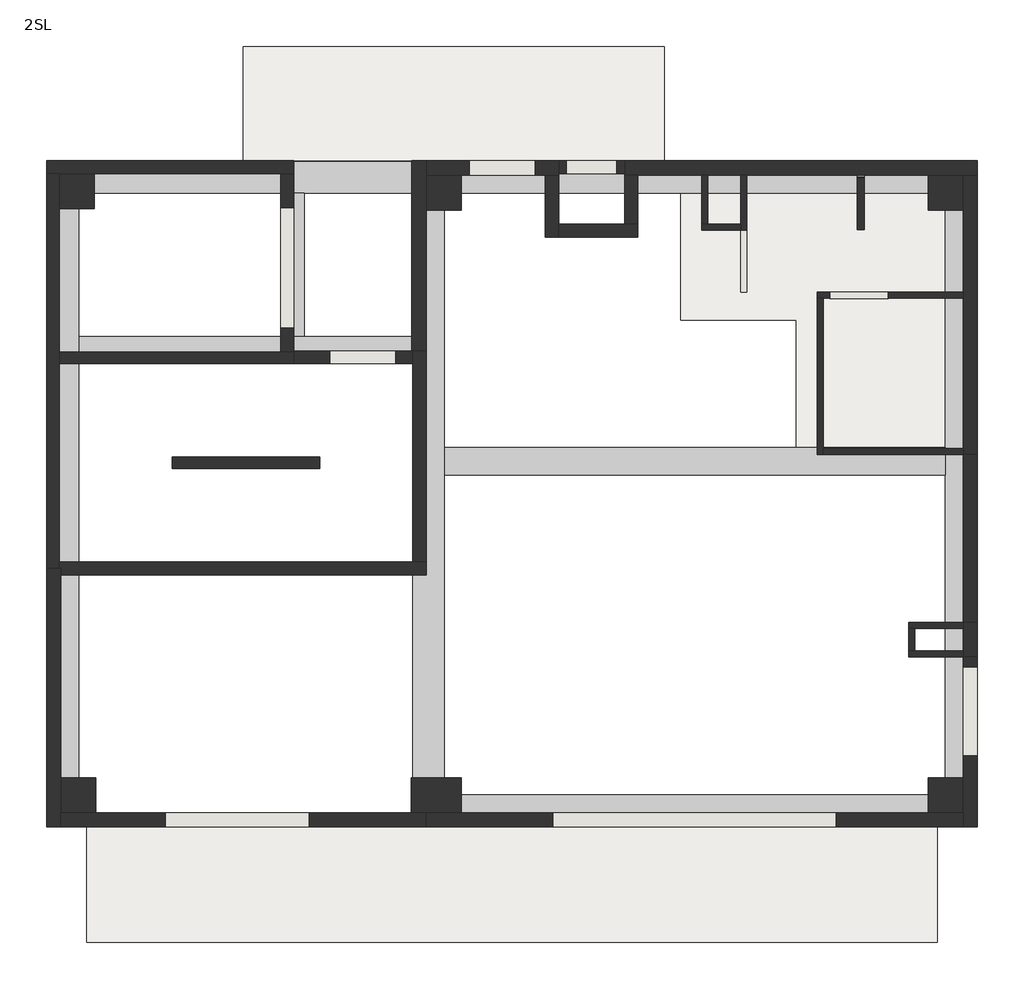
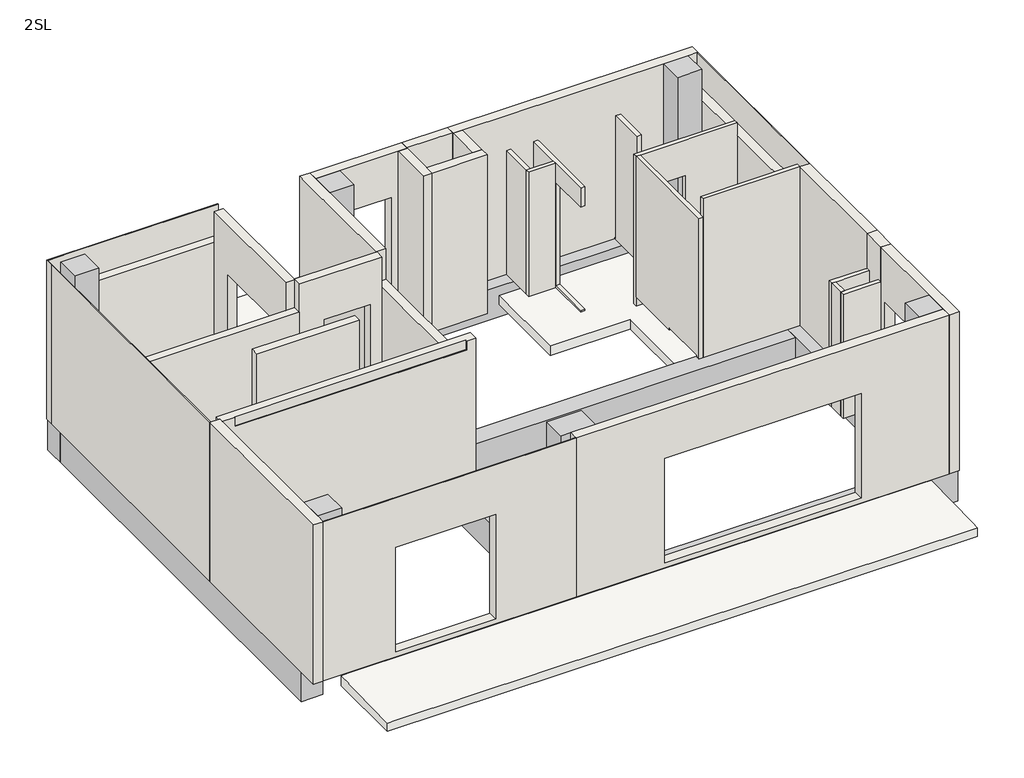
# One storey: 33 walls, 8 beams, 6 columns, 3 slabs.
"""IFC4 building model written with IfcOpenShell, lengths in millimetres."""

from ifc_helpers import new_model, si_unit, frame, origin, place, context, project, spatial, polyline, outline, extrude, faceted_brep, element, save

model = new_model("IFC4")

# Units and contexts
model_context = context("Model", 3, world=origin())
ifc_project = project(units=[si_unit("LENGTHUNIT", "METRE", prefix="MILLI")], contexts=[model_context])

# Site, building, storey
site = spatial("IfcSite", under=ifc_project)
building = spatial("IfcBuilding", under=site)
storey = spatial("IfcBuildingStorey", under=building, Name="2SL", Elevation=3120.0)

# Beams
placement = place(None, origin())
element("IfcBeam", 1, ObjectType="コンクリート-長方形梁 : B1-350x550", at=placement, inside=storey, context=model_context, shape_type="Brep", body=[
    faceted_brep([(-3381.7658988, 1298.6001516, 3120.0), (-3381.7658988, 948.6001516, 3120.0), (-616.7658988, 948.6001516, 3120.0), (918.2341012, 948.6001516, 3120.0), (918.2341012, 1298.6001516, 3120.0), (-481.7658988, 1298.6001516, 3120.0), (-781.7658988, 1298.6001516, 3120.0), (-3381.7658988, 948.6001516, 2570.0), (918.2341012, 948.6001516, 2570.0), (-3381.7658988, 1298.6001516, 2570.0), (918.2341012, 1298.6001516, 2570.0)], [[[0, 1, 2, 3, 4, 5, 6]], [[1, 7, 8, 3, 2]], [[7, 9, 10, 8]], [[9, 0, 6, 5, 4, 10]], [[7, 1, 0, 9]], [[4, 3, 8, 10]]]),
])
element("IfcBeam", 2, ObjectType="コンクリート-長方形梁 : B1-350x550", at=placement, inside=storey, context=model_context, shape_type="SweptSolid", body=[
    extrude(outline(polyline([(7768.2341012, -131.3998484), (7768.2341012, -481.3998484), (1318.2341012, -481.3998484), (1318.2341012, -131.3998484), (7768.2341012, -131.3998484)])), frame((0.0, 0.0, 2570.0), z_axis=(0.0, 0.0, 1.0), x_axis=(1.0, 0.0, 0.0)), (0.0, 0.0, 1.0), 550.0),
])
element("IfcBeam", 3, ObjectType="コンクリート-長方形梁 : B2-300x500", at=placement, inside=storey, context=model_context, shape_type="SweptSolid", body=[
    extrude(outline(polyline([(-781.7658988, 3148.6001516), (-481.7658988, 3148.6001516), (-481.7658988, 1298.6001516), (-781.7658988, 1298.6001516), (-781.7658988, 3148.6001516)])), frame((0.0, 0.0, 2620.0), z_axis=(0.0, 0.0, 1.0), x_axis=(1.0, 0.0, 0.0)), (0.0, 0.0, 1.0), 500.0),
])
element("IfcBeam", 4, ObjectType="コンクリート-長方形梁 : G1-400x600", at=placement, inside=storey, context=model_context, shape_type="Brep", body=[
    faceted_brep([(8168.2341012, -5001.3998484, 3120.0), (8168.2341012, -4601.3998484, 3120.0), (7768.2341012, -4601.3998484, 3120.0), (1318.2341012, -4601.3998484, 3120.0), (1318.2341012, -5001.3998484, 3120.0), (8168.2341012, -5001.3998484, 2520.0), (1318.2341012, -5001.3998484, 2520.0), (8168.2341012, -4601.3998484, 2520.0), (1318.2341012, -4601.3998484, 2520.0), (7768.2341012, -4601.3998484, 2520.0)], [[[0, 1, 2, 3, 4]], [[5, 0, 4, 6]], [[7, 5, 6, 8, 9]], [[1, 7, 9, 8, 3, 2]], [[1, 0, 5, 7]], [[4, 3, 8, 6]]]),
])
element("IfcBeam", 5, ObjectType="コンクリート-長方形梁 : G1-400x600", at=placement, inside=storey, context=model_context, shape_type="Brep", body=[
    faceted_brep([(8168.2341012, 3548.6001516, 3120.0), (7768.2341012, 3548.6001516, 3120.0), (7768.2341012, 3148.6001516, 3120.0), (7768.2341012, -131.3998484, 3120.0), (7768.2341012, -481.3998484, 3120.0), (7768.2341012, -4601.3998484, 3120.0), (8168.2341012, -4601.3998484, 3120.0), (8168.2341012, 3398.6001516, 3120.0), (8168.2341012, 3548.6001516, 2520.0), (8168.2341012, -4601.3998484, 2520.0), (8168.2341012, 3398.6001516, 2520.0), (7768.2341012, 3548.6001516, 2520.0), (7768.2341012, -4601.3998484, 2520.0), (7768.2341012, 3148.6001516, 2520.0)], [[[0, 1, 2, 3, 4, 5, 6, 7]], [[8, 0, 7, 6, 9, 10]], [[11, 8, 10, 9, 12, 13]], [[1, 11, 13, 12, 5, 4, 3, 2]], [[6, 5, 12, 9]], [[1, 0, 8, 11]]]),
])
element("IfcBeam", 6, ObjectType="コンクリート-長方形梁 : G1-400x600", at=placement, inside=storey, context=model_context, shape_type="Brep", body=[
    faceted_brep([(-3781.7658988, 3548.6001516, 3120.0), (-3781.7658988, 3398.6001516, 3120.0), (-3781.7658988, 3148.6001516, 3120.0), (-3381.7658988, 3148.6001516, 3120.0), (-781.7658988, 3148.6001516, 3120.0), (-481.7658988, 3148.6001516, 3120.0), (918.2341012, 3148.6001516, 3120.0), (1318.2341012, 3148.6001516, 3120.0), (7768.2341012, 3148.6001516, 3120.0), (7768.2341012, 3548.6001516, 3120.0), (-3781.7658988, 3548.6001516, 2520.0), (7768.2341012, 3548.6001516, 2520.0), (-3781.7658988, 3148.6001516, 2520.0), (-3781.7658988, 3398.6001516, 2520.0), (7768.2341012, 3148.6001516, 2520.0), (1318.2341012, 3148.6001516, 2520.0), (918.2341012, 3148.6001516, 2520.0), (-3381.7658988, 3148.6001516, 2520.0)], [[[0, 1, 2, 3, 4, 5, 6, 7, 8, 9]], [[10, 0, 9, 11]], [[12, 13, 10, 11, 14, 15, 16, 17]], [[2, 12, 17, 16, 15, 14, 8, 7, 6, 5, 4, 3]], [[9, 8, 14, 11]], [[2, 1, 0, 10, 13, 12]]]),
])
element("IfcBeam", 7, ObjectType="コンクリート-長方形梁 : G1-400x600", at=placement, inside=storey, context=model_context, shape_type="Brep", body=[
    faceted_brep([(-3781.7658988, -4601.3998484, 3120.0), (-3381.7658988, -4601.3998484, 3120.0), (-3381.7658988, 948.6001516, 3120.0), (-3381.7658988, 1298.6001516, 3120.0), (-3381.7658988, 3148.6001516, 3120.0), (-3781.7658988, 3148.6001516, 3120.0), (-3781.7658988, -4601.3998484, 2520.0), (-3781.7658988, 3148.6001516, 2520.0), (-3381.7658988, -4601.3998484, 2520.0), (-3381.7658988, 3148.6001516, 2520.0)], [[[0, 1, 2, 3, 4, 5]], [[6, 0, 5, 7]], [[8, 6, 7, 9]], [[1, 8, 9, 4, 3, 2]], [[1, 0, 6, 8]], [[5, 4, 9, 7]]]),
])
element("IfcBeam", 8, ObjectType="コンクリート-長方形梁 : G1-400x600", at=placement, inside=storey, context=model_context, shape_type="Brep", body=[
    faceted_brep([(918.2341012, -4601.3998484, 3120.0), (1318.2341012, -4601.3998484, 3120.0), (1318.2341012, -481.3998484, 3120.0), (1318.2341012, -143.8998484, 3120.0), (1318.2341012, -131.3998484, 3120.0), (1318.2341012, 3148.6001516, 3120.0), (918.2341012, 3148.6001516, 3120.0), (918.2341012, 1298.6001516, 3120.0), (918.2341012, 1113.6001516, 3120.0), (918.2341012, 1031.1001516, 3120.0), (918.2341012, 948.6001516, 3120.0), (918.2341012, -1601.3998484, 3120.0), (918.2341012, -4601.3998484, 2520.0), (918.2341012, 3148.6001516, 2520.0), (1318.2341012, -4601.3998484, 2520.0), (1318.2341012, 3148.6001516, 2520.0), (1318.2341012, 3148.6001516, 2940.0)], [[[0, 1, 2, 3, 4, 5, 6, 7, 8, 9, 10, 11]], [[12, 0, 11, 10, 9, 8, 7, 6, 13]], [[14, 12, 13, 15]], [[1, 14, 15, 16, 5, 4, 3, 2]], [[1, 0, 12, 14]], [[6, 5, 16, 15, 13]]]),
])

# Columns
element("IfcColumn", 9, ObjectType="角柱 : 600 x 600mm", at=placement, inside=storey, context=model_context, shape_type="Brep", body=[
    faceted_brep([(-3181.7658988, 2948.6001516, 6240.0), (-3181.7658988, 3398.6001516, 6240.0), (-3631.7658988, 3398.6001516, 6240.0), (-3631.7658988, 2948.6001516, 6240.0), (-3181.7658988, 3398.6001516, 3120.0), (-3181.7658988, 2948.6001516, 3120.0), (-3631.7658988, 2948.6001516, 3120.0), (-3631.7658988, 3398.6001516, 3120.0), (-3631.7658988, 3398.6001516, 5640.0)], [[[0, 1, 2, 3]], [[4, 5, 6, 7]], [[5, 0, 3, 6]], [[0, 5, 4, 1]], [[1, 4, 7, 8, 2]], [[3, 2, 8, 7, 6]]]),
])
element("IfcColumn", 10, ObjectType="角柱 : 620 x 620mm", at=placement, inside=storey, context=model_context, shape_type="Brep", body=[
    faceted_brep([(7548.2341012, -4381.3998484, 6240.0), (7548.2341012, -4831.3998484, 6240.0), (7998.2341012, -4831.3998484, 6240.0), (7998.2341012, -4381.3998484, 6240.0), (7548.2341012, -4831.3998484, 3120.0), (7548.2341012, -4381.3998484, 3120.0), (7998.2341012, -4381.3998484, 3120.0), (7998.2341012, -4831.3998484, 3120.0), (7548.2341012, -4381.3998484, 3155.0), (7548.2341012, -4381.3998484, 5555.0), (7998.2341012, -4381.3998484, 5555.0), (7998.2341012, -4381.3998484, 3155.0), (7548.2341012, -4831.3998484, 3155.0), (7548.2341012, -4831.3998484, 5555.0)], [[[0, 1, 2, 3]], [[4, 5, 6, 7]], [[5, 8, 9, 0, 3, 10, 11, 6]], [[0, 9, 8, 5, 4, 12, 13, 1]], [[1, 13, 12, 4, 7, 2]], [[3, 2, 7, 6, 11, 10]]]),
])
element("IfcColumn", 11, ObjectType="角柱 : 620 x 620mm", at=placement, inside=storey, context=model_context, shape_type="Brep", body=[
    faceted_brep([(7548.2341012, 2928.6001516, 6240.0), (7998.2341012, 2928.6001516, 6240.0), (7998.2341012, 3378.6001516, 6240.0), (7548.2341012, 3378.6001516, 6240.0), (7998.2341012, 2928.6001516, 3120.0), (7548.2341012, 2928.6001516, 3120.0), (7548.2341012, 3378.6001516, 3120.0), (7998.2341012, 3378.6001516, 3120.0), (7548.2341012, 2928.6001516, 3155.0), (7548.2341012, 2928.6001516, 5555.0), (7548.2341012, 3378.6001516, 5555.0), (7548.2341012, 3378.6001516, 3141.7), (7998.2341012, 2928.6001516, 3155.0), (7998.2341012, 2928.6001516, 5555.0), (7998.2341012, 3378.6001516, 5640.0)], [[[0, 1, 2, 3]], [[4, 5, 6, 7]], [[5, 8, 9, 0, 3, 10, 11, 6]], [[0, 9, 8, 5, 4, 12, 13, 1]], [[1, 13, 12, 4, 7, 14, 2]], [[3, 2, 14, 7, 6, 11, 10]]]),
])
element("IfcColumn", 12, ObjectType="角柱 : 620 x 620mm", at=placement, inside=storey, context=model_context, shape_type="Brep", body=[
    faceted_brep([(1538.2341012, 2928.6001516, 6240.0), (1538.2341012, 3378.6001516, 6240.0), (1088.2341012, 3378.6001516, 6240.0), (1088.2341012, 2928.6001516, 6240.0), (1538.2341012, 3378.6001516, 3120.0), (1538.2341012, 2928.6001516, 3120.0), (1088.2341012, 2928.6001516, 3120.0), (1088.2341012, 3378.6001516, 3120.0), (1538.2341012, 2928.6001516, 3155.0), (1538.2341012, 2928.6001516, 5555.0), (1088.2341012, 2928.6001516, 5555.0), (1088.2341012, 2928.6001516, 3155.0), (1538.2341012, 3378.6001516, 3155.0), (1538.2341012, 3378.6001516, 5555.0)], [[[0, 1, 2, 3]], [[4, 5, 6, 7]], [[5, 8, 9, 0, 3, 10, 11, 6]], [[0, 9, 8, 5, 4, 12, 13, 1]], [[1, 13, 12, 4, 7, 2]], [[3, 2, 7, 6, 11, 10]]]),
])
element("IfcColumn", 13, ObjectType="角柱 : 620 x 620mm", at=placement, inside=storey, context=model_context, shape_type="Brep", body=[
    faceted_brep([(-3161.7658988, -4381.3998484, 6240.0), (-3611.7658988, -4381.3998484, 6240.0), (-3611.7658988, -4831.3998484, 6240.0), (-3161.7658988, -4831.3998484, 6240.0), (-3611.7658988, -4381.3998484, 3120.0), (-3161.7658988, -4381.3998484, 3120.0), (-3161.7658988, -4831.3998484, 3120.0), (-3611.7658988, -4831.3998484, 3120.0), (-3161.7658988, -4381.3998484, 5555.0), (-3161.7658988, -4381.3998484, 3155.0), (-3611.7658988, -4381.3998484, 3155.0), (-3611.7658988, -4381.3998484, 5555.0), (-3161.7658988, -4831.3998484, 5555.0), (-3161.7658988, -4831.3998484, 3155.0), (-3611.7658988, -4831.3998484, 3155.0), (-3611.7658988, -4831.3998484, 5640.0)], [[[0, 1, 2, 3]], [[4, 5, 6, 7]], [[0, 8, 9, 5, 4, 10, 11, 1]], [[5, 9, 8, 0, 3, 12, 13, 6]], [[1, 11, 10, 4, 7, 14, 15, 2]], [[3, 2, 15, 14, 7, 6, 13, 12]]]),
])
element("IfcColumn", 14, ObjectType="角柱 : 620 x 640mm", at=placement, inside=storey, context=model_context, shape_type="Brep", body=[
    faceted_brep([(1538.2341012, -4381.3998484, 6240.0), (898.2341012, -4381.3998484, 6240.0), (898.2341012, -4831.3998484, 6240.0), (1083.2341012, -4831.3998484, 6240.0), (1538.2341012, -4831.3998484, 6240.0), (898.2341012, -4381.3998484, 3120.0), (1538.2341012, -4381.3998484, 3120.0), (1538.2341012, -4831.3998484, 3120.0), (1083.2341012, -4831.3998484, 3120.0), (898.2341012, -4831.3998484, 3120.0), (1538.2341012, -4381.3998484, 5555.0), (1538.2341012, -4381.3998484, 3155.0), (898.2341012, -4381.3998484, 3155.0), (898.2341012, -4381.3998484, 5555.0), (898.2341012, -4831.3998484, 3155.0), (898.2341012, -4831.3998484, 5555.0), (1538.2341012, -4831.3998484, 5555.0), (1538.2341012, -4831.3998484, 3155.0)], [[[0, 1, 2, 3, 4]], [[5, 6, 7, 8, 9]], [[1, 0, 10, 11, 6, 5, 12, 13]], [[1, 13, 12, 5, 9, 14, 15, 2]], [[6, 11, 10, 0, 4, 16, 17, 7]], [[3, 2, 15, 14, 9, 8]], [[4, 3, 8, 7, 17, 16]]]),
])

# Slabs
element("IfcSlab", 15, ObjectType="一般180mm", at=placement, inside=storey, context=model_context, shape_type="Brep", body=[
    faceted_brep([(4363.2341012, 1508.6001516, 2760.0), (4363.2341012, 3148.6001516, 2760.0), (7768.2341012, 3148.6001516, 2760.0), (7768.2341012, -131.3998484, 2760.0), (5853.2341012, -131.3998484, 2760.0), (5853.2341012, 1508.6001516, 2760.0), (4363.2341012, 1508.6001516, 2940.0), (5853.2341012, 1508.6001516, 2940.0), (5853.2341012, -131.3998484, 2940.0), (7768.2341012, -131.3998484, 2940.0), (7768.2341012, 3148.6001516, 2940.0), (4723.2341012, 3148.6001516, 2940.0), (4363.2341012, 3148.6001516, 2940.0)], [[[0, 1, 2, 3, 4, 5]], [[6, 7, 8, 9, 10, 11, 12]], [[1, 0, 6, 12]], [[2, 1, 12, 11, 10]], [[3, 2, 10, 9]], [[4, 3, 9, 8]], [[5, 4, 8, 7]], [[0, 5, 7, 6]]]),
])
element("IfcSlab", 16, ObjectType="一般 180mm+15ｍｍ", at=placement, inside=storey, context=model_context, shape_type="Brep", body=[
    faceted_brep([(4153.2341012, 3563.6001516, 2910.0), (-1266.7658988, 3563.6001516, 2910.0), (-1266.7658988, 5033.6001516, 2910.0), (-1131.7658988, 5033.6001516, 2910.0), (4153.2341012, 5033.6001516, 2910.0), (4153.2341012, 4898.6001516, 2910.0), (4153.2341012, 3563.6001516, 3105.0), (4018.2341012, 3563.6001516, 3105.0), (-1131.7658988, 3563.6001516, 3105.0), (-1266.7658988, 3563.6001516, 3105.0), (-1266.7658988, 5033.6001516, 3075.0), (-1131.7658988, 5033.6001516, 3075.0), (4153.2341012, 5033.6001516, 3075.0), (4153.2341012, 4898.6001516, 3077.755102)], [[[0, 1, 2, 3, 4, 5]], [[1, 0, 6, 7, 8, 9]], [[2, 1, 9, 10]], [[4, 3, 2, 10, 11, 12]], [[0, 5, 4, 12, 13, 6]], [[12, 11, 10, 9, 8, 7, 6, 13]]]),
])
element("IfcSlab", 17, ObjectType="一般 180mm+15ｍｍ", at=placement, inside=storey, context=model_context, shape_type="Brep", body=[
    faceted_brep([(7668.2341012, -5016.3998484, 2910.0), (7668.2341012, -6501.3998484, 2910.0), (-3281.7658988, -6501.3998484, 2910.0), (-3281.7658988, -5016.3998484, 2910.0), (7668.2341012, -5016.3998484, 3105.0), (7668.2341012, -6351.3998484, 3078.030303), (7668.2341012, -6501.3998484, 3075.0), (-3131.7658988, -6501.3998484, 3075.0), (-3281.7658988, -6501.3998484, 3075.0), (-3281.7658988, -5016.3998484, 3105.0), (-3131.7658988, -5016.3998484, 3105.0), (7518.2341012, -5016.3998484, 3105.0)], [[[0, 1, 2, 3]], [[1, 0, 4, 5, 6]], [[2, 1, 6, 7, 8]], [[3, 2, 8, 9]], [[0, 3, 9, 10, 11, 4]], [[9, 8, 7, 6, 5, 4, 11, 10]]]),
])

# Walls
element("IfcWall", 18, ObjectType="外壁-150mm+15mm", at=placement, inside=storey, context=model_context, shape_type="Brep", body=[
    faceted_brep([(-3796.7658988, 3398.6001516, 3120.0), (-3781.7658988, 3398.6001516, 3120.0), (-3631.7658988, 3398.6001516, 3120.0), (-3181.7658988, 3398.6001516, 3120.0), (-781.7658988, 3398.6001516, 3120.0), (-616.7658988, 3398.6001516, 3120.0), (-616.7658988, 3398.6001516, 5355.0), (-616.7658988, 3398.6001516, 5640.0), (-3631.7658988, 3398.6001516, 5640.0), (-3781.7658988, 3398.6001516, 5640.0), (-3781.7658988, 3398.6001516, 6240.0), (-3796.7658988, 3398.6001516, 6240.0), (-616.7658988, 3563.6001516, 3120.0), (-3796.7658988, 3563.6001516, 3120.0), (-3796.7658988, 3563.6001516, 6240.0), (-616.7658988, 3563.6001516, 6240.0), (-616.7658988, 3563.6001516, 5355.0), (-3781.7658988, 3548.6001516, 6240.0), (-3381.7658988, 3548.6001516, 6240.0), (-616.7658988, 3548.6001516, 6240.0), (-616.7658988, 3548.6001516, 5640.0), (-3781.7658988, 3548.6001516, 5640.0), (-3381.7658988, 3548.6001516, 5640.0)], [[[0, 1, 2, 3, 4, 5, 6, 7, 8, 9, 10, 11]], [[12, 13, 14, 15, 16]], [[5, 4, 3, 2, 1, 0, 13, 12]], [[15, 14, 11, 10, 17, 18, 19]], [[0, 11, 14, 13]], [[5, 12, 16, 15, 19, 20, 7, 6]], [[17, 21, 22, 20, 19, 18]], [[20, 22, 21, 9, 8, 7]], [[21, 17, 10, 9]]]),
])
element("IfcWall", 19, ObjectType="外壁-15mm+150mm+20mm", at=placement, inside=storey, context=model_context, shape_type="Brep", body=[
    faceted_brep([(7998.2341012, 3378.6001516, 3120.0), (7998.2341012, 2928.6001516, 3120.0), (7998.2341012, -221.3998484, 3120.0), (7998.2341012, -221.3998484, 5640.0), (7998.2341012, 3378.6001516, 5640.0), (8183.2341012, -221.3998484, 6240.0), (8183.2341012, -221.3998484, 3120.0), (8183.2341012, 3378.6001516, 3120.0), (8183.2341012, 3378.6001516, 6240.0), (8168.2341012, -221.3998484, 6240.0), (8168.2341012, -221.3998484, 5640.0), (8018.2341012, -221.3998484, 3120.0), (8168.2341012, 3378.6001516, 6240.0), (8018.2341012, 3378.6001516, 3120.0), (8168.2341012, 3378.6001516, 5640.0)], [[[0, 1, 2, 3, 4]], [[5, 6, 7, 8]], [[6, 5, 9, 10, 3, 2, 11]], [[5, 8, 12, 9]], [[8, 7, 13, 0, 4, 14, 12]], [[2, 1, 0, 13, 11]], [[13, 7, 6, 11]], [[14, 10, 9, 12]], [[10, 14, 4, 3]]]),
])
element("IfcWall", 20, ObjectType="外壁-15mm+150mm+20mm", at=placement, inside=storey, context=model_context, shape_type="Brep", body=[
    faceted_brep([(7998.2341012, -4831.3998484, 6240.0), (7998.2341012, -4831.3998484, 3120.0), (7548.2341012, -4831.3998484, 3120.0), (1538.2341012, -4831.3998484, 3120.0), (1083.2341012, -4831.3998484, 3120.0), (1083.2341012, -4831.3998484, 3155.0), (1083.2341012, -4831.3998484, 5640.0), (1083.2341012, -4831.3998484, 6240.0), (1538.2341012, -4831.3998484, 6240.0), (7548.2341012, -4831.3998484, 6240.0), (6368.2341012, -4831.3998484, 3215.0), (6368.2341012, -4831.3998484, 5265.0), (2718.2341012, -4831.3998484, 5265.0), (2718.2341012, -4831.3998484, 3215.0), (7998.2341012, -5016.3998484, 3120.0), (7998.2341012, -5016.3998484, 6240.0), (1083.2341012, -5016.3998484, 6240.0), (1083.2341012, -5016.3998484, 3120.0), (6368.2341012, -5016.3998484, 5265.0), (6368.2341012, -5016.3998484, 3215.0), (2718.2341012, -5016.3998484, 3215.0), (2718.2341012, -5016.3998484, 5265.0), (1083.2341012, -5001.3998484, 6240.0), (7998.2341012, -4851.3998484, 3120.0), (1083.2341012, -4851.3998484, 3120.0), (1083.2341012, -4926.3998484, 3120.0)], [[[0, 1, 2, 3, 4, 5, 6, 7, 8, 9], [10, 11, 12, 13]], [[14, 15, 16, 17], [18, 19, 20, 21]], [[15, 0, 9, 8, 7, 22, 16]], [[1, 0, 15, 14, 23]], [[11, 10, 19, 18]], [[12, 11, 18, 21]], [[13, 12, 21, 20]], [[10, 13, 20, 19]], [[1, 23, 24, 4, 3, 2]], [[23, 14, 17, 25, 24]], [[7, 6, 5, 4, 24, 25, 17, 16, 22]]]),
])
element("IfcWall", 21, ObjectType="外壁-15mm+150mm+20mm", at=placement, inside=storey, context=model_context, shape_type="Brep", body=[
    faceted_brep([(-3611.7658988, -5016.3998484, 3120.0), (-3611.7658988, -4926.3998484, 3120.0), (-3611.7658988, -4831.3998484, 3120.0), (-3611.7658988, -4381.3998484, 3120.0), (-3611.7658988, -1686.3998484, 3120.0), (-3611.7658988, -1686.3998484, 3155.0), (-3611.7658988, -1686.3998484, 6240.0), (-3611.7658988, -1771.3998484, 6240.0), (-3611.7658988, -4381.3998484, 6240.0), (-3611.7658988, -4831.3998484, 6240.0), (-3611.7658988, -5001.3998484, 6240.0), (-3611.7658988, -5016.3998484, 6240.0), (-3796.7658988, -5016.3998484, 3120.0), (-3796.7658988, -5016.3998484, 6240.0), (-3796.7658988, -1686.3998484, 6240.0), (-3796.7658988, -1686.3998484, 3120.0), (-3631.7658988, -1686.3998484, 3120.0), (-3781.7658988, -1686.3998484, 6240.0), (-3631.7658988, -1686.3998484, 6240.0), (-3631.7658988, -5016.3998484, 3120.0)], [[[0, 1, 2, 3, 4, 5, 6, 7, 8, 9, 10, 11]], [[12, 13, 14, 15]], [[6, 5, 4, 16, 15, 14, 17, 18]], [[11, 10, 9, 8, 7, 6, 18, 17, 14, 13]], [[4, 3, 2, 1, 0, 19, 16]], [[0, 11, 13, 12, 19]], [[19, 12, 15, 16]]]),
])
element("IfcWall", 22, ObjectType="外壁-150mm+20mm", at=placement, inside=storey, context=model_context, shape_type="Brep", body=[
    faceted_brep([(1088.2341012, -1771.3998484, 3120.0), (1088.2341012, -1771.3998484, 6240.0), (918.2341012, -1771.3998484, 6240.0), (918.2341012, -1771.3998484, 6060.0), (-3381.7658988, -1771.3998484, 6060.0), (-3381.7658988, -1771.3998484, 6240.0), (-3611.7658988, -1771.3998484, 6240.0), (-3611.7658988, -1771.3998484, 5555.0), (-3611.7658988, -1771.3998484, 3155.0), (1038.2341012, -1771.3998484, 3155.0), (1083.2341012, -1771.3998484, 3155.0), (1083.2341012, -1771.3998484, 3120.0), (-3631.7658988, -1601.3998484, 6240.0), (1088.2341012, -1601.3998484, 6240.0), (1088.2341012, -1601.3998484, 5640.0), (1088.2341012, -1601.3998484, 3155.0), (1088.2341012, -1601.3998484, 3120.0), (-3631.7658988, -1601.3998484, 3120.0), (-3631.7658988, -1686.3998484, 6240.0), (-3611.7658988, -1686.3998484, 6240.0), (-3381.7658988, -1751.3998484, 6240.0), (918.2341012, -1751.3998484, 6240.0), (-3611.7658988, -1686.3998484, 3155.0), (1088.2341012, -1751.3998484, 3120.0), (-3631.7658988, -1686.3998484, 5640.0), (-3631.7658988, -1686.3998484, 3155.0), (-3631.7658988, -1676.3998484, 3120.0), (-3631.7658988, -1676.3998484, 3155.0), (1083.2341012, -1751.3998484, 3120.0), (1083.2341012, -1676.3998484, 3120.0), (1083.2341012, -1676.3998484, 3155.0), (918.2341012, -1751.3998484, 6060.0), (-3381.7658988, -1751.3998484, 6060.0)], [[[0, 1, 2, 3, 4, 5, 6, 7, 8, 9, 10, 11]], [[12, 13, 14, 15, 16, 17]], [[13, 12, 18, 19, 6, 5, 20, 21, 2, 1]], [[6, 19, 22, 8, 7]], [[1, 0, 23, 16, 15, 14, 13]], [[19, 18, 24, 25, 22]], [[12, 17, 26, 27, 25, 24, 18]], [[23, 0, 11, 28]], [[17, 16, 23, 28, 29, 26]], [[30, 10, 9, 8, 22, 25, 27]], [[30, 29, 28, 11, 10]], [[29, 30, 27, 26]], [[31, 32, 4, 3]], [[21, 31, 3, 2]], [[32, 20, 5, 4]], [[32, 31, 21, 20]]]),
])
element("IfcWall", 23, ObjectType="外壁-150mm+20mm", at=placement, inside=storey, context=model_context, shape_type="Brep", body=[
    faceted_brep([(1088.2341012, 1113.6001516, 5640.0), (1088.2341012, -1601.3998484, 5640.0), (1088.2341012, -1601.3998484, 3155.0), (1088.2341012, 1113.6001516, 3155.0), (918.2341012, 1113.6001516, 5640.0), (918.2341012, 1113.6001516, 3120.0), (918.2341012, 1031.1001516, 3120.0), (918.2341012, 1031.1001516, 3155.0), (918.2341012, -1601.3998484, 3155.0), (918.2341012, -1601.3998484, 5640.0), (993.2341012, 1113.6001516, 3155.0), (993.2341012, 1113.6001516, 3120.0), (993.2341012, 1031.1001516, 3120.0), (993.2341012, 1031.1001516, 3155.0)], [[[0, 1, 2, 3]], [[4, 5, 6, 7, 8, 9]], [[1, 9, 8, 2]], [[5, 4, 0, 3, 10, 11]], [[6, 5, 11, 12]], [[1, 0, 4, 9]], [[2, 8, 7, 13, 10, 3]], [[13, 7, 6, 12]], [[10, 13, 12, 11]]]),
])
element("IfcWall", 24, ObjectType="標準-150mm", at=placement, inside=storey, context=model_context, shape_type="Brep", body=[
    faceted_brep([(-3631.7658988, 948.6001516, 3120.0), (-3381.7658988, 948.6001516, 3120.0), (-616.7658988, 948.6001516, 3120.0), (-616.7658988, 948.6001516, 5690.0), (-3381.7658988, 948.6001516, 5690.0), (-3631.7658988, 948.6001516, 5690.0), (-616.7658988, 1098.6001516, 3120.0), (-781.7658988, 1098.6001516, 3120.0), (-3631.7658988, 1098.6001516, 3120.0), (-3631.7658988, 1098.6001516, 5690.0), (-616.7658988, 1098.6001516, 5690.0)], [[[0, 1, 2, 3, 4, 5]], [[6, 7, 8, 9, 10]], [[2, 1, 0, 8, 7, 6]], [[8, 0, 5, 9]], [[2, 6, 10, 3]], [[5, 4, 3, 10, 9]]]),
])
element("IfcWall", 25, ObjectType="外壁-150mm+15mm", at=placement, inside=storey, context=model_context, shape_type="Brep", body=[
    faceted_brep([(-616.7658988, 1098.6001516, 3120.0), (-616.7658988, 1113.6001516, 3120.0), (-616.7658988, 3398.6001516, 3120.0), (-616.7658988, 3398.6001516, 5640.0), (-616.7658988, 3398.6001516, 6240.0), (-616.7658988, 1113.6001516, 6240.0), (-616.7658988, 1098.6001516, 6240.0), (-616.7658988, 1098.6001516, 5690.0), (-616.7658988, 2958.6001516, 5255.0), (-616.7658988, 2958.6001516, 3155.0), (-616.7658988, 1408.6001516, 3155.0), (-616.7658988, 1408.6001516, 5255.0), (-781.7658988, 1098.6001516, 3120.0), (-781.7658988, 1098.6001516, 6240.0), (-781.7658988, 3398.6001516, 6240.0), (-781.7658988, 3398.6001516, 3120.0), (-781.7658988, 2958.6001516, 5255.0), (-781.7658988, 1408.6001516, 5255.0), (-781.7658988, 1408.6001516, 3155.0), (-781.7658988, 2958.6001516, 3155.0)], [[[0, 1, 2, 3, 4, 5, 6, 7], [8, 9, 10, 11]], [[12, 13, 14, 15], [16, 17, 18, 19]], [[2, 1, 0, 12, 15]], [[6, 5, 4, 14, 13]], [[0, 7, 6, 13, 12]], [[2, 15, 14, 4, 3]], [[9, 8, 16, 19]], [[10, 9, 19, 18]], [[11, 10, 18, 17]], [[8, 11, 17, 16]]]),
])
element("IfcWall", 26, ObjectType="外壁-15mm+150mm+20mm", at=placement, inside=storey, context=model_context, shape_type="Brep", body=[
    faceted_brep([(1088.2341012, 3378.6001516, 6240.0), (1088.2341012, 3378.6001516, 3120.0), (1538.2341012, 3378.6001516, 3120.0), (2623.2341012, 3378.6001516, 3120.0), (2793.2341012, 3378.6001516, 3120.0), (2793.2341012, 3378.6001516, 6240.0), (2623.2341012, 3378.6001516, 6240.0), (1538.2341012, 3378.6001516, 6240.0), (2493.2341012, 3378.6001516, 5380.0), (2493.2341012, 3378.6001516, 3155.0), (1643.2341012, 3378.6001516, 3155.0), (1643.2341012, 3378.6001516, 5380.0), (1088.2341012, 3563.6001516, 3120.0), (1088.2341012, 3563.6001516, 6240.0), (2793.2341012, 3563.6001516, 6240.0), (2793.2341012, 3563.6001516, 3120.0), (2493.2341012, 3563.6001516, 5380.0), (1643.2341012, 3563.6001516, 5380.0), (1643.2341012, 3563.6001516, 3155.0), (2493.2341012, 3563.6001516, 3155.0), (2793.2341012, 3398.6001516, 6240.0), (1088.2341012, 3398.6001516, 3120.0), (2793.2341012, 3398.6001516, 3120.0)], [[[0, 1, 2, 3, 4, 5, 6, 7], [8, 9, 10, 11]], [[12, 13, 14, 15], [16, 17, 18, 19]], [[0, 7, 6, 5, 20, 14, 13]], [[9, 8, 16, 19]], [[10, 9, 19, 18]], [[11, 10, 18, 17]], [[8, 11, 17, 16]], [[0, 13, 12, 21, 1]], [[4, 3, 2, 1, 21, 22]], [[21, 12, 15, 22]], [[5, 4, 22, 15, 14, 20]]]),
])
element("IfcWall", 27, ObjectType="標準\u300065ｍｍ+12.5mm", at=placement, inside=storey, context=model_context, shape_type="Brep", body=[
    faceted_brep([(7998.2341012, -2748.8998484, 3120.0), (7375.7341012, -2748.8998484, 3120.0), (7298.2341012, -2748.8998484, 3120.0), (7298.2341012, -2748.8998484, 5555.0), (7375.7341012, -2748.8998484, 5555.0), (7998.2341012, -2748.8998484, 5555.0), (7998.2341012, -2826.3998484, 3120.0), (7998.2341012, -2826.3998484, 3155.0), (7998.2341012, -2826.3998484, 5555.0), (7958.2341012, -2826.3998484, 5555.0), (7298.2341012, -2826.3998484, 5555.0), (7298.2341012, -2826.3998484, 3120.0)], [[[0, 1, 2, 3, 4, 5]], [[6, 7, 8, 9, 10, 11]], [[2, 1, 0, 6, 11]], [[5, 4, 3, 10, 9, 8]], [[0, 5, 8, 7, 6]], [[3, 2, 11, 10]]]),
])
element("IfcWall", 28, ObjectType="標準\u300065ｍｍ+12.5mm", at=placement, inside=storey, context=model_context, shape_type="Brep", body=[
    faceted_brep([(7375.7341012, -2748.8998484, 3120.0), (7375.7341012, -2458.8998484, 3120.0), (7375.7341012, -2458.8998484, 5555.0), (7375.7341012, -2748.8998484, 5555.0), (7298.2341012, -2748.8998484, 3120.0), (7298.2341012, -2748.8998484, 5555.0), (7298.2341012, -2471.3998484, 5555.0), (7298.2341012, -2458.8998484, 5555.0), (7298.2341012, -2458.8998484, 3120.0)], [[[0, 1, 2, 3]], [[4, 5, 6, 7, 8]], [[1, 0, 4, 8]], [[3, 2, 7, 6, 5]], [[0, 3, 5, 4]], [[1, 8, 7, 2]]]),
])
element("IfcWall", 29, ObjectType="外壁-150mm+20mm", at=placement, inside=storey, context=model_context, shape_type="Brep", body=[
    faceted_brep([(2623.2341012, 3378.6001516, 3120.0), (2623.2341012, 2578.6001516, 3120.0), (2623.2341012, 2578.6001516, 6240.0), (2623.2341012, 3378.6001516, 6240.0), (2793.2341012, 3378.6001516, 3120.0), (2793.2341012, 3378.6001516, 6240.0), (2793.2341012, 2748.6001516, 6240.0), (2793.2341012, 2578.6001516, 6240.0), (2793.2341012, 2578.6001516, 3120.0), (2793.2341012, 2748.6001516, 3120.0), (2643.2341012, 2578.6001516, 3120.0), (2643.2341012, 3378.6001516, 3120.0)], [[[0, 1, 2, 3]], [[4, 5, 6, 7, 8, 9]], [[3, 2, 7, 6, 5]], [[2, 1, 10, 8, 7]], [[0, 3, 5, 4, 11]], [[1, 0, 11, 10]], [[11, 4, 9, 8, 10]]]),
])
element("IfcWall", 30, ObjectType="外壁-150mm+20mm", at=placement, inside=storey, context=model_context, shape_type="Brep", body=[
    faceted_brep([(2793.2341012, 2578.6001516, 3120.0), (3813.2341012, 2578.6001516, 3120.0), (3813.2341012, 2578.6001516, 6240.0), (2793.2341012, 2578.6001516, 6240.0), (2793.2341012, 2748.6001516, 3120.0), (2793.2341012, 2748.6001516, 6240.0), (3643.2341012, 2748.6001516, 6240.0), (3813.2341012, 2748.6001516, 6240.0), (3813.2341012, 2748.6001516, 3120.0), (3643.2341012, 2748.6001516, 3120.0), (2793.2341012, 2598.6001516, 3120.0), (3813.2341012, 2598.6001516, 3120.0)], [[[0, 1, 2, 3]], [[4, 5, 6, 7, 8, 9]], [[3, 2, 7, 6, 5]], [[0, 3, 5, 4, 10]], [[1, 0, 10, 11]], [[10, 4, 9, 8, 11]], [[2, 1, 11, 8, 7]]]),
])
element("IfcWall", 31, ObjectType="外壁-150mm+20mm", at=placement, inside=storey, context=model_context, shape_type="SweptSolid", body=[
    extrude(outline(polyline([(3120.0, 3813.2341012), (6240.0, 3813.2341012), (6240.0, 3643.2341012), (3120.0, 3643.2341012), (3120.0, 3793.2341012), (3120.0, 3813.2341012)])), frame((0.0, 2748.6001516, 0.0), z_axis=(0.0, 1.0, 0.0), x_axis=(0.0, 0.0, 1.0)), (0.0, 0.0, 1.0), 630.0),
])
element("IfcWall", 32, ObjectType="標準\u300065ｍｍ+12.5mm", at=placement, inside=storey, context=model_context, shape_type="Brep", body=[
    faceted_brep([(6200.7341012, -221.3998484, 3120.0), (6200.7341012, -143.8998484, 3120.0), (6200.7341012, 1791.1001516, 3120.0), (6200.7341012, 1791.1001516, 5880.0), (6200.7341012, -221.3998484, 5880.0), (6123.2341012, -221.3998484, 5880.0), (6123.2341012, 1791.1001516, 5880.0), (6123.2341012, 1791.1001516, 3120.0), (6123.2341012, 723.6001516, 3120.0), (6123.2341012, 723.6001516, 3155.0), (6123.2341012, 678.6001516, 3155.0), (6123.2341012, -131.3998484, 3155.0), (6123.2341012, -176.3998484, 3155.0), (6123.2341012, -176.3998484, 3120.0), (6123.2341012, -221.3998484, 3120.0), (6123.2341012, -221.3998484, 3155.0), (6123.2341012, -221.3998484, 5555.0), (6168.2341012, -176.3998484, 3120.0), (6168.2341012, 723.6001516, 3120.0), (6168.2341012, 723.6001516, 3155.0), (6168.2341012, -176.3998484, 3155.0)], [[[0, 1, 2, 3, 4]], [[5, 6, 7, 8, 9, 10, 11, 12, 13, 14, 15, 16]], [[2, 1, 0, 14, 13, 17, 18, 8, 7]], [[4, 3, 6, 5]], [[4, 5, 16, 15, 14, 0]], [[19, 20, 12, 11, 10, 9]], [[20, 17, 13, 12]], [[18, 19, 9, 8]], [[20, 19, 18, 17]], [[2, 7, 6, 3]]]),
])
element("IfcWall", 33, ObjectType="標準\u300065ｍｍ+12.5mm", at=placement, inside=storey, context=model_context, shape_type="Brep", body=[
    faceted_brep([(6123.2341012, 1791.1001516, 5880.0), (6123.2341012, 1791.1001516, 3120.0), (6123.2341012, 1791.1001516, 2940.0), (7998.2341012, 1791.1001516, 2940.0), (7998.2341012, 1791.1001516, 5880.0), (6200.7341012, 1791.1001516, 5880.0), (6283.2341012, 1791.1001516, 5180.0), (7033.2341012, 1791.1001516, 5180.0), (7033.2341012, 1791.1001516, 3155.0), (6283.2341012, 1791.1001516, 3155.0), (6123.2341012, 1868.6001516, 2940.0), (6123.2341012, 1868.6001516, 3155.0), (6123.2341012, 1868.6001516, 5555.0), (6123.2341012, 1868.6001516, 5880.0), (7998.2341012, 1868.6001516, 5880.0), (7998.2341012, 1868.6001516, 5555.0), (7998.2341012, 1868.6001516, 3155.0), (7998.2341012, 1868.6001516, 2940.0), (6283.2341012, 1868.6001516, 5180.0), (6283.2341012, 1868.6001516, 3155.0), (7033.2341012, 1868.6001516, 3155.0), (7033.2341012, 1868.6001516, 5180.0)], [[[0, 1, 2, 3, 4, 5], [6, 7, 8, 9]], [[10, 11, 12, 13, 14, 15, 16, 17], [18, 19, 20, 21]], [[3, 2, 10, 17]], [[4, 3, 17, 16, 15, 14]], [[0, 5, 4, 14, 13]], [[19, 18, 6, 9]], [[20, 19, 9, 8]], [[21, 20, 8, 7]], [[18, 21, 7, 6]], [[0, 13, 12, 11, 10, 2, 1]]]),
])
element("IfcWall", 34, ObjectType="標準\u300065ｍｍ+12.5mm", at=placement, inside=storey, context=model_context, shape_type="Brep", body=[
    faceted_brep([(5135.7341012, 3378.6001516, 3120.0), (5135.7341012, 2746.1001516, 3120.0), (5135.7341012, 2668.6001516, 3120.0), (5135.7341012, 1868.6001516, 3120.0), (5135.7341012, 1868.6001516, 3155.0), (5135.7341012, 2668.6001516, 3155.0), (5135.7341012, 2668.6001516, 5180.0), (5135.7341012, 1868.6001516, 5180.0), (5135.7341012, 1868.6001516, 5555.0), (5135.7341012, 2668.6001516, 5555.0), (5135.7341012, 2746.1001516, 5555.0), (5135.7341012, 3378.6001516, 5555.0), (5213.2341012, 1868.6001516, 3120.0), (5213.2341012, 3378.6001516, 3120.0), (5213.2341012, 3378.6001516, 3141.7), (5213.2341012, 3378.6001516, 5555.0), (5213.2341012, 3338.6001516, 5555.0), (5213.2341012, 1868.6001516, 5555.0), (5213.2341012, 1868.6001516, 5180.0), (5213.2341012, 2668.6001516, 5180.0), (5213.2341012, 2668.6001516, 3155.0), (5213.2341012, 1868.6001516, 3155.0)], [[[0, 1, 2, 3, 4, 5, 6, 7, 8, 9, 10, 11]], [[12, 13, 14, 15, 16, 17, 18, 19, 20, 21]], [[3, 2, 1, 0, 13, 12]], [[11, 10, 9, 8, 17, 16, 15]], [[0, 11, 15, 14, 13]], [[3, 12, 21, 4]], [[17, 8, 7, 18]], [[20, 5, 4, 21]], [[5, 20, 19, 6]], [[6, 19, 18, 7]]]),
])
element("IfcWall", 35, ObjectType="標準-12.5mm+65ｍｍ+12.5mm（袖壁）", at=placement, inside=storey, context=model_context, shape_type="SweptSolid", body=[
    extrude(outline(polyline([(3378.6001516, 3120.0), (2673.6001516, 3120.0), (2673.6001516, 5555.0), (3338.6001516, 5555.0), (3338.6001516, 3141.7), (3351.1001516, 3141.7), (3378.6001516, 3141.7), (3378.6001516, 3120.0)])), frame((6638.2341012, 0.0, 0.0), z_axis=(1.0, 0.0, 0.0), x_axis=(0.0, 1.0, 0.0)), (0.0, 0.0, 1.0), 90.0),
])
element("IfcWall", 36, ObjectType="標準\u300065ｍｍ+12.5mm", at=placement, inside=storey, context=model_context, shape_type="Brep", body=[
    faceted_brep([(5135.7341012, 2746.1001516, 3120.0), (4710.7341012, 2746.1001516, 3120.0), (4633.2341012, 2746.1001516, 3120.0), (4633.2341012, 2746.1001516, 5555.0), (4710.7341012, 2746.1001516, 5555.0), (5135.7341012, 2746.1001516, 5555.0), (5135.7341012, 2668.6001516, 3120.0), (5135.7341012, 2668.6001516, 3155.0), (5135.7341012, 2668.6001516, 5180.0), (5135.7341012, 2668.6001516, 5555.0), (4723.2341012, 2668.6001516, 5555.0), (4633.2341012, 2668.6001516, 5555.0), (4633.2341012, 2668.6001516, 3155.0), (4633.2341012, 2668.6001516, 3120.0)], [[[0, 1, 2, 3, 4, 5]], [[6, 7, 8, 9, 10, 11, 12, 13]], [[2, 1, 0, 6, 13]], [[5, 4, 3, 11, 10, 9]], [[0, 5, 9, 8, 7, 6]], [[2, 13, 12, 11, 3]]]),
])
element("IfcWall", 37, ObjectType="標準-150mm", at=placement, inside=storey, context=model_context, shape_type="SweptSolid", body=[
    extrude(outline(polyline([(-2181.7658988, -251.3998484), (-281.7658988, -251.3998484), (-281.7658988, -401.3998484), (-2181.7658988, -401.3998484), (-2181.7658988, -251.3998484)])), frame((0.0, 0.0, 3120.0), z_axis=(0.0, 0.0, 1.0), x_axis=(1.0, 0.0, 0.0)), (0.0, 0.0, 1.0), 3120.0),
])
element("IfcWall", 38, ObjectType="標準\u300065ｍｍ+12.5mm", at=placement, inside=storey, context=model_context, shape_type="Brep", body=[
    faceted_brep([(6200.7341012, -221.3998484, 6240.0), (6200.7341012, -221.3998484, 5880.0), (6200.7341012, -221.3998484, 3120.0), (7998.2341012, -221.3998484, 3120.0), (7998.2341012, -221.3998484, 3155.0), (7998.2341012, -221.3998484, 5555.0), (7998.2341012, -221.3998484, 6240.0), (6200.7341012, -143.8998484, 3120.0), (6200.7341012, -143.8998484, 6240.0), (7998.2341012, -143.8998484, 6240.0), (7998.2341012, -143.8998484, 3120.0)], [[[0, 1, 2, 3, 4, 5, 6]], [[7, 8, 9, 10]], [[3, 2, 7, 10]], [[6, 5, 4, 3, 10, 9]], [[0, 6, 9, 8]], [[0, 8, 7, 2, 1]]]),
])
element("IfcWall", 39, ObjectType="外壁-150mm+15mm", at=placement, inside=storey, context=model_context, shape_type="Brep", body=[
    faceted_brep([(-616.7658988, 948.6001516, 3120.0), (918.2341012, 948.6001516, 3120.0), (918.2341012, 948.6001516, 6240.0), (-616.7658988, 948.6001516, 6240.0), (-616.7658988, 948.6001516, 5690.0), (698.2341012, 948.6001516, 5380.0), (698.2341012, 948.6001516, 3155.0), (-151.7658988, 948.6001516, 3155.0), (-151.7658988, 948.6001516, 5380.0), (-616.7658988, 1113.6001516, 3120.0), (-616.7658988, 1113.6001516, 6240.0), (903.2341012, 1113.6001516, 6240.0), (918.2341012, 1113.6001516, 6240.0), (918.2341012, 1113.6001516, 5640.0), (918.2341012, 1113.6001516, 3120.0), (903.2341012, 1113.6001516, 3120.0), (698.2341012, 1113.6001516, 5380.0), (-151.7658988, 1113.6001516, 5380.0), (-151.7658988, 1113.6001516, 3155.0), (698.2341012, 1113.6001516, 3155.0), (-616.7658988, 1098.6001516, 3120.0), (918.2341012, 1031.1001516, 3120.0), (-616.7658988, 1098.6001516, 6240.0)], [[[0, 1, 2, 3, 4], [5, 6, 7, 8]], [[9, 10, 11, 12, 13, 14, 15], [16, 17, 18, 19]], [[1, 0, 20, 9, 15, 14, 21]], [[3, 2, 12, 11, 10, 22]], [[5, 8, 17, 16]], [[8, 7, 18, 17]], [[7, 6, 19, 18]], [[6, 5, 16, 19]], [[0, 4, 3, 22, 10, 9, 20]], [[2, 1, 21, 14, 13, 12]]]),
])
element("IfcWall", 40, ObjectType="外壁-15mm+150mm+20mm", at=placement, inside=storey, context=model_context, shape_type="Brep", body=[
    faceted_brep([(1088.2341012, 1113.6001516, 3120.0), (1088.2341012, 2928.6001516, 3120.0), (1088.2341012, 3378.6001516, 3120.0), (1088.2341012, 3563.6001516, 3120.0), (1088.2341012, 3563.6001516, 6240.0), (1088.2341012, 3378.6001516, 6240.0), (1088.2341012, 2928.6001516, 6240.0), (1088.2341012, 1113.6001516, 6240.0), (903.2341012, 1113.6001516, 3120.0), (903.2341012, 1113.6001516, 6240.0), (903.2341012, 3398.6001516, 6240.0), (903.2341012, 3563.6001516, 6240.0), (903.2341012, 3563.6001516, 5355.0), (903.2341012, 3563.6001516, 3120.0), (918.2341012, 1113.6001516, 6240.0), (918.2341012, 1113.6001516, 3120.0), (1068.2341012, 1113.6001516, 3120.0), (1068.2341012, 3563.6001516, 3120.0)], [[[0, 1, 2, 3, 4, 5, 6, 7]], [[8, 9, 10, 11, 12, 13]], [[7, 6, 5, 4, 11, 10, 9, 14]], [[0, 7, 14, 9, 8, 15, 16]], [[3, 17, 13, 12, 11, 4]], [[3, 2, 1, 0, 16, 17]], [[16, 15, 8, 13, 17]]]),
])
element("IfcWall", 41, ObjectType="増し打ち-15mm", at=placement, inside=storey, context=model_context, shape_type="Brep", body=[
    faceted_brep([(2808.2341012, -5016.3998484, 2520.0), (7553.2234548, -5016.3998484, 2520.0), (7560.7234548, -5016.3998484, 2520.0), (7560.7234548, -5016.3998484, 2910.0), (7518.2341012, -5016.3998484, 2910.0), (2808.2341012, -5016.3998484, 2910.0), (2808.2341012, -5001.3998484, 2520.0), (2808.2341012, -5001.3998484, 2910.0), (7518.2341012, -5001.3998484, 2910.0), (7560.7234548, -5001.3998484, 2910.0), (7560.7234548, -5001.3998484, 2520.0)], [[[0, 1, 2, 3, 4, 5]], [[6, 7, 8, 9, 10]], [[2, 1, 0, 6, 10]], [[3, 2, 10, 9]], [[5, 4, 3, 9, 8, 7]], [[0, 5, 7, 6]]]),
])
element("IfcWall", 42, ObjectType="外壁-150mm+15mm", at=placement, inside=storey, context=model_context, shape_type="Brep", body=[
    faceted_brep([(-3631.7658988, -1686.3998484, 3120.0), (-3631.7658988, -1676.3998484, 3120.0), (-3631.7658988, -1601.3998484, 3120.0), (-3631.7658988, 948.6001516, 3120.0), (-3631.7658988, 1098.6001516, 3120.0), (-3631.7658988, 2948.6001516, 3120.0), (-3631.7658988, 3398.6001516, 3120.0), (-3631.7658988, 3398.6001516, 5640.0), (-3631.7658988, -1686.3998484, 5640.0), (-3631.7658988, -1686.3998484, 3155.0), (-3796.7658988, 3398.6001516, 3120.0), (-3796.7658988, -1686.3998484, 3120.0), (-3796.7658988, -1686.3998484, 6240.0), (-3796.7658988, 3398.6001516, 6240.0), (-3781.7658988, 3398.6001516, 3120.0), (-3781.7658988, -1686.3998484, 6240.0), (-3781.7658988, 3398.6001516, 6240.0), (-3781.7658988, -1686.3998484, 5640.0), (-3781.7658988, 3398.6001516, 5640.0)], [[[0, 1, 2, 3, 4, 5, 6, 7, 8, 9]], [[10, 11, 12, 13]], [[6, 5, 4, 3, 2, 1, 0, 11, 10, 14]], [[13, 12, 15, 16]], [[12, 11, 0, 9, 8, 17, 15]], [[6, 14, 10, 13, 16, 18, 7]], [[17, 18, 16, 15]], [[18, 17, 8, 7]]]),
])
element("IfcWall", 43, ObjectType="標準\u300065ｍｍ+12.5mm", at=placement, inside=storey, context=model_context, shape_type="Brep", body=[
    faceted_brep([(4710.7341012, 2746.1001516, 5555.0), (4710.7341012, 2746.1001516, 3120.0), (4710.7341012, 3378.6001516, 3120.0), (4710.7341012, 3378.6001516, 5555.0), (4633.2341012, 2746.1001516, 3120.0), (4633.2341012, 2746.1001516, 5555.0), (4633.2341012, 3338.6001516, 5555.0), (4633.2341012, 3378.6001516, 5555.0), (4633.2341012, 3378.6001516, 3155.0), (4633.2341012, 3378.6001516, 3120.0)], [[[0, 1, 2, 3]], [[4, 5, 6, 7, 8, 9]], [[2, 1, 4, 9]], [[3, 2, 9, 8, 7]], [[0, 3, 7, 6, 5]], [[0, 5, 4, 1]]]),
])
element("IfcWall", 44, ObjectType="外壁-150mm+15mm", at=placement, inside=storey, context=model_context, shape_type="SweptSolid", body=[
    extrude(outline(polyline([(3120.0, 2793.2341012), (3120.0, 3643.2341012), (6240.0, 3643.2341012), (6240.0, 2793.2341012), (3120.0, 2793.2341012)]), holes=[polyline([(5380.0, 3543.2341012), (3155.0, 3543.2341012), (3155.0, 2893.2341012), (5380.0, 2893.2341012), (5380.0, 3543.2341012)])]), frame((0.0, 3398.6001516, 0.0), z_axis=(0.0, 1.0, 0.0), x_axis=(0.0, 0.0, 1.0)), (0.0, 0.0, 1.0), 165.0),
])
element("IfcWall", 45, ObjectType="外壁-15mm+150mm+20mm", at=placement, inside=storey, context=model_context, shape_type="Brep", body=[
    faceted_brep([(3643.2341012, 3378.6001516, 3120.0), (3813.2341012, 3378.6001516, 3120.0), (7548.2341012, 3378.6001516, 3120.0), (7998.2341012, 3378.6001516, 3120.0), (8183.2341012, 3378.6001516, 3120.0), (8183.2341012, 3378.6001516, 6240.0), (7998.2341012, 3378.6001516, 6240.0), (7548.2341012, 3378.6001516, 6240.0), (3813.2341012, 3378.6001516, 6240.0), (3643.2341012, 3378.6001516, 6240.0), (3643.2341012, 3563.6001516, 3120.0), (3643.2341012, 3563.6001516, 6240.0), (8183.2341012, 3563.6001516, 6240.0), (8183.2341012, 3563.6001516, 3120.0), (3643.2341012, 3398.6001516, 6240.0), (3643.2341012, 3398.6001516, 3120.0), (8183.2341012, 3398.6001516, 3120.0)], [[[0, 1, 2, 3, 4, 5, 6, 7, 8, 9]], [[10, 11, 12, 13]], [[9, 8, 7, 6, 5, 12, 11, 14]], [[4, 3, 2, 1, 0, 15, 16]], [[0, 9, 14, 11, 10, 15]], [[15, 10, 13, 16]], [[5, 4, 16, 13, 12]]]),
])
element("IfcWall", 46, ObjectType="外壁-15mm+150mm+20mm", at=placement, inside=storey, context=model_context, shape_type="SweptSolid", body=[
    extrude(outline(polyline([(6240.0, 7998.2341012), (3120.0, 7998.2341012), (3120.0, 8018.2341012), (3120.0, 8183.2341012), (6240.0, 8183.2341012), (6240.0, 7998.2341012)])), frame((0.0, -2381.3998484, 0.0), z_axis=(0.0, 1.0, 0.0), x_axis=(0.0, 0.0, 1.0)), (0.0, 0.0, 1.0), 2160.0),
])
element("IfcWall", 47, ObjectType="外壁-15mm+150mm+20mm", at=placement, inside=storey, context=model_context, shape_type="SweptSolid", body=[
    extrude(outline(polyline([(6240.0, 7998.2341012), (3120.0, 7998.2341012), (3120.0, 8018.2341012), (3120.0, 8183.2341012), (6240.0, 8183.2341012), (6240.0, 7998.2341012)])), frame((0.0, -2826.3998484, 0.0), z_axis=(0.0, 1.0, 0.0), x_axis=(0.0, 0.0, 1.0)), (0.0, 0.0, 1.0), 445.0),
])
element("IfcWall", 48, ObjectType="外壁-15mm+150mm+20mm", at=placement, inside=storey, context=model_context, shape_type="Brep", body=[
    faceted_brep([(7998.2341012, -2826.3998484, 3120.0), (7998.2341012, -4381.3998484, 3120.0), (7998.2341012, -4831.3998484, 3120.0), (7998.2341012, -5016.3998484, 3120.0), (7998.2341012, -5016.3998484, 6240.0), (7998.2341012, -4831.3998484, 6240.0), (7998.2341012, -4381.3998484, 6240.0), (7998.2341012, -2826.3998484, 6240.0), (7998.2341012, -2826.3998484, 5555.0), (7998.2341012, -2826.3998484, 3155.0), (7998.2341012, -4101.3998484, 5230.0), (7998.2341012, -4101.3998484, 3980.0), (7998.2341012, -2951.3998484, 3980.0), (7998.2341012, -2951.3998484, 5230.0), (8183.2341012, -2826.3998484, 3120.0), (8183.2341012, -2826.3998484, 6240.0), (8183.2341012, -5016.3998484, 6240.0), (8183.2341012, -5016.3998484, 3120.0), (8183.2341012, -4101.3998484, 5230.0), (8183.2341012, -2951.3998484, 5230.0), (8183.2341012, -2951.3998484, 3980.0), (8183.2341012, -4101.3998484, 3980.0), (8018.2341012, -2826.3998484, 3120.0), (8018.2341012, -5016.3998484, 3120.0)], [[[0, 1, 2, 3, 4, 5, 6, 7, 8, 9], [10, 11, 12, 13]], [[14, 15, 16, 17], [18, 19, 20, 21]], [[7, 6, 5, 4, 16, 15]], [[0, 9, 8, 7, 15, 14, 22]], [[4, 3, 23, 17, 16]], [[3, 2, 1, 0, 22, 23]], [[22, 14, 17, 23]], [[10, 13, 19, 18]], [[13, 12, 20, 19]], [[12, 11, 21, 20]], [[11, 10, 18, 21]]]),
])
element("IfcWall", 49, ObjectType="標準\u300065ｍｍ+12.5mm", at=placement, inside=storey, context=model_context, shape_type="Brep", body=[
    faceted_brep([(7298.2341012, -2458.8998484, 5555.0), (7298.2341012, -2458.8998484, 3120.0), (7375.7341012, -2458.8998484, 3120.0), (7998.2341012, -2458.8998484, 3120.0), (7998.2341012, -2458.8998484, 5555.0), (7375.7341012, -2458.8998484, 5555.0), (7298.2341012, -2381.3998484, 3120.0), (7298.2341012, -2381.3998484, 3155.0), (7298.2341012, -2381.3998484, 5555.0), (7958.2341012, -2381.3998484, 5555.0), (7998.2341012, -2381.3998484, 5555.0), (7998.2341012, -2381.3998484, 3155.0), (7998.2341012, -2381.3998484, 3120.0)], [[[0, 1, 2, 3, 4, 5]], [[6, 7, 8, 9, 10, 11, 12]], [[3, 2, 1, 6, 12]], [[4, 3, 12, 11, 10]], [[0, 5, 4, 10, 9, 8]], [[0, 8, 7, 6, 1]]]),
])
element("IfcWall", 50, ObjectType="外壁-15mm+150mm+20mm", at=placement, inside=storey, context=model_context, shape_type="Brep", body=[
    faceted_brep([(1083.2341012, -4831.3998484, 3155.0), (438.2341012, -4831.3998484, 3155.0), (-3161.7658988, -4831.3998484, 3155.0), (-3611.7658988, -4831.3998484, 3155.0), (-3611.7658988, -4831.3998484, 5640.0), (1083.2341012, -4831.3998484, 5640.0), (-416.7658988, -4831.3998484, 5265.0), (-2266.7658988, -4831.3998484, 5265.0), (-2266.7658988, -4831.3998484, 3215.0), (-416.7658988, -4831.3998484, 3215.0), (1083.2341012, -5016.3998484, 6240.0), (870.7341012, -5016.3998484, 6240.0), (-3611.7658988, -5016.3998484, 6240.0), (-3611.7658988, -5016.3998484, 3120.0), (1083.2341012, -5016.3998484, 3120.0), (-2266.7658988, -5016.3998484, 5265.0), (-416.7658988, -5016.3998484, 5265.0), (-416.7658988, -5016.3998484, 3215.0), (-2266.7658988, -5016.3998484, 3215.0), (1083.2341012, -5001.3998484, 6240.0), (918.2341012, -5001.3998484, 6240.0), (-3381.7658988, -5001.3998484, 6240.0), (-3611.7658988, -5001.3998484, 6240.0), (1083.2341012, -4926.3998484, 3120.0), (1083.2341012, -4926.3998484, 3155.0), (1083.2341012, -5001.3998484, 5640.0), (-3611.7658988, -4926.3998484, 3120.0), (-3611.7658988, -5001.3998484, 5640.0), (-3611.7658988, -4926.3998484, 3155.0), (918.2341012, -5001.3998484, 5640.0), (-3381.7658988, -5001.3998484, 5640.0)], [[[0, 1, 2, 3, 4, 5], [6, 7, 8, 9]], [[10, 11, 12, 13, 14], [15, 16, 17, 18]], [[12, 11, 10, 19, 20, 21, 22]], [[10, 14, 23, 24, 0, 5, 25, 19]], [[7, 6, 16, 15]], [[6, 9, 17, 16]], [[9, 8, 18, 17]], [[8, 7, 15, 18]], [[14, 13, 26, 23]], [[13, 12, 22, 27, 4, 3, 28, 26]], [[24, 28, 3, 2, 1, 0]], [[28, 24, 23, 26]], [[25, 29, 30, 27, 22, 21, 20, 19]], [[27, 30, 29, 25, 5, 4]]]),
])

save(model, "model.ifc")
